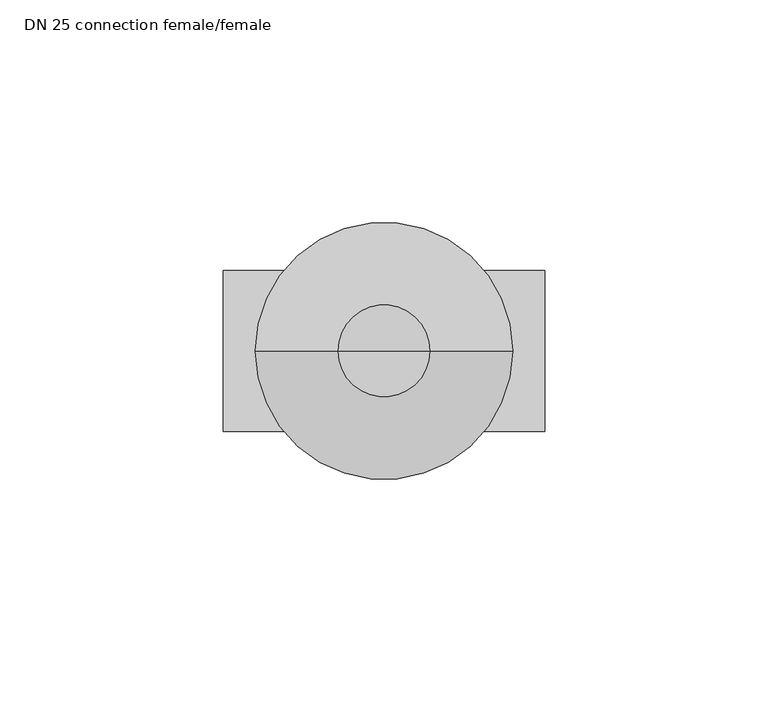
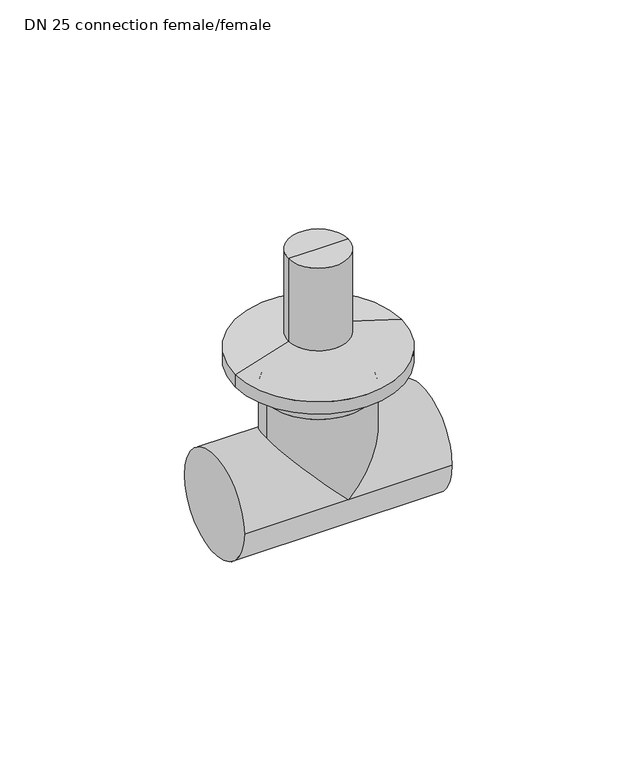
"""IFC4 building model written with IfcOpenShell, lengths in millimetres: valve geometry, PP-R_Valve_chrome cover : DN 25 connection female/female."""

from ifc_helpers import new_model, si_unit, point, frame, origin, place, context, project, spatial, polyline, circle_curve, ellipse_curve, trimmed, source, transform, mapped, element, save
from ifc_brep_helpers import plane_surface, cylinder_surface, revolved_surface, advanced_brep


def dn_25_connection_female_female_cc53bf04(model_context):
    return source(origin(), model_context, "Body", "AdvancedBrep", [
        advanced_brep(
        [(49.5156627, 0.0, 81.0), (59.801377, 0.0, 81.0), (39.2299485, 0.0, 81.0), (20.7156627, 0.0, 40.5), (78.3156627, 0.0, 40.5), (49.5156627, 0.0, 40.5), (20.7156627, 0.0, 45.0), (78.3156627, 0.0, 45.0), (59.801377, 0.0, 50.7857143), (39.2299485, 0.0, 50.7857143)],
        [
            (0, 1),
            (1, 2, circle_curve(frame((49.5156627, 0.0, 81.0), z_axis=(0.0, 0.0, 1.0), x_axis=(1.0, 0.0, 0.0)), 10.2857143)),
            (2, 0),
            (2, 1, circle_curve(frame((49.5156627, 0.0, 81.0), z_axis=(0.0, 0.0, 1.0), x_axis=(1.0, 0.0, 0.0)), 10.2857143)),
            (3, 4, circle_curve(frame((49.5156627, 0.0, 40.5), z_axis=(0.0, 0.0, -1.0), x_axis=(1.0, 0.0, 0.0)), 28.8)),
            (4, 5),
            (5, 3),
            (4, 3, circle_curve(frame((49.5156627, 0.0, 40.5), z_axis=(0.0, 0.0, -1.0), x_axis=(1.0, 0.0, 0.0)), 28.8)),
            (6, 7, circle_curve(frame((49.5156627, 0.0, 45.0), z_axis=(0.0, 0.0, -1.0), x_axis=(1.0, 0.0, 0.0)), 28.8)),
            (7, 4),
            (3, 6),
            (7, 6, circle_curve(frame((49.5156627, 0.0, 45.0), z_axis=(0.0, 0.0, -1.0), x_axis=(1.0, 0.0, 0.0)), 28.8)),
            (1, 8),
            (8, 9, circle_curve(frame((49.5156627, 0.0, 50.7857143), z_axis=(0.0, 0.0, 1.0), x_axis=(1.0, 0.0, 0.0)), 10.2857143)),
            (9, 2),
            (9, 8, circle_curve(frame((49.5156627, 0.0, 50.7857143), z_axis=(0.0, 0.0, 1.0), x_axis=(1.0, 0.0, 0.0)), 10.2857143)),
            (8, 7),
            (6, 9),
        ],
        [
            plane_surface(frame((49.5156627, 0.0, 81.0), z_axis=(0.0, 0.0, 1.0), x_axis=(1.0, 0.0, 0.0))),
            plane_surface(frame((49.5156627, 0.0, 40.5), z_axis=(0.0, 0.0, -1.0), x_axis=(1.0, 0.0, 0.0))),
            cylinder_surface(frame((49.5156627, 0.0, 164.5), z_axis=(0.0, 0.0, 1.0), x_axis=(1.0, 0.0, 0.0)), 28.8),
            cylinder_surface(frame((49.5156627, 0.0, 164.5), z_axis=(0.0, 0.0, 1.0), x_axis=(1.0, 0.0, 0.0)), 10.2857143),
            revolved_surface(polyline([(78.3156627, 0.0, 45.0), (59.801377, 0.0, 50.7857143)]), (49.5156627, 0.0, 164.5), (0.0, 0.0, 1.0)),
        ],
        [
            (0, [[1, 2, 3]]),
            (0, [[-3, 4, -1]]),
            (1, [[5, 6, 7]]),
            (1, [[8, -7, -6]]),
            (2, [[9, 10, -5, 11]]),
            (2, [[12, -11, -8, -10]]),
            (3, [[-2, 13, 14, 15]]),
            (3, [[-4, -15, 16, -13]]),
            (4, [[-14, 17, -9, 18]]),
            (4, [[-16, -18, -12, -17]]),
        ],
    ),
        advanced_brep(
        [(49.5156627, 0.0, 40.5), (58.5156627, 0.0, 40.5), (40.5156627, 0.0, 40.5), (36.0156627, 0.0, 35.5), (40.5156627, 0.0, 35.5), (58.5156627, 0.0, 35.5), (63.0156627, 0.0, 35.5), (67.5156627, 0.0, 31.0), (31.5156627, 0.0, 31.0), (67.5156627, 0.0, 18.0), (49.5156627, 18.0, 0.0), (31.5156627, 0.0, 18.0), (49.5156627, -18.0, 0.0), (85.5156627, -18.0, 0.0), (85.5156627, 18.0, 0.0), (13.5156627, -18.0, 0.0), (13.5156627, 18.0, 0.0)],
        [
            (0, 1),
            (1, 2, circle_curve(frame((49.5156627, 0.0, 40.5), z_axis=(0.0, 0.0, 1.0), x_axis=(1.0, 0.0, 0.0)), 9.0)),
            (2, 0),
            (2, 1, circle_curve(frame((49.5156627, 0.0, 40.5), z_axis=(0.0, 0.0, 1.0), x_axis=(1.0, 0.0, 0.0)), 9.0)),
            (3, 4),
            (4, 5, circle_curve(frame((49.5156627, 0.0, 35.5), z_axis=(0.0, 0.0, -1.0), x_axis=(1.0, 0.0, 0.0)), 9.0)),
            (5, 6),
            (6, 3, circle_curve(frame((49.5156627, 0.0, 35.5), z_axis=(0.0, 0.0, 1.0), x_axis=(1.0, 0.0, 0.0)), 13.5)),
            (3, 6, circle_curve(frame((49.5156627, 0.0, 35.5), z_axis=(0.0, 0.0, 1.0), x_axis=(1.0, 0.0, 0.0)), 13.5)),
            (5, 4, circle_curve(frame((49.5156627, 0.0, 35.5), z_axis=(0.0, 0.0, -1.0), x_axis=(1.0, 0.0, 0.0)), 9.0)),
            (6, 7, circle_curve(frame((63.0156627, 0.0, 31.0), z_axis=(0.0, 1.0, 0.0), x_axis=(1.0, 0.0, 0.0)), 4.5)),
            (7, 8, circle_curve(frame((49.5156627, 0.0, 31.0), z_axis=(0.0, 0.0, 1.0), x_axis=(1.0, 0.0, 0.0)), 18.0)),
            (8, 3, circle_curve(frame((36.0156627, 0.0, 31.0), z_axis=(0.0, 1.0, 0.0), x_axis=(-1.0, 0.0, 0.0)), 4.5)),
            (8, 7, circle_curve(frame((49.5156627, 0.0, 31.0), z_axis=(0.0, 0.0, 1.0), x_axis=(1.0, 0.0, 0.0)), 18.0)),
            (4, 2),
            (1, 5),
            (7, 9),
            (9, 10, ellipse_curve(frame((49.5156627, 0.0, 0.0), z_axis=(-0.7071067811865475, 0.0, 0.7071067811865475), x_axis=(0.7071067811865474, 0.0, 0.7071067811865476)), 25.4558441, 18.0)),
            (10, 11, ellipse_curve(frame((49.5156627, 0.0, 0.0), z_axis=(0.7071067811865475, 0.0, 0.7071067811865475), x_axis=(-0.7071067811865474, 0.0, 0.7071067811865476)), 25.4558441, 18.0)),
            (11, 8),
            (11, 12, ellipse_curve(frame((49.5156627, 0.0, 0.0), z_axis=(0.7071067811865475, 0.0, 0.7071067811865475), x_axis=(-0.7071067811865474, 0.0, 0.7071067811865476)), 25.4558441, 18.0)),
            (12, 9, ellipse_curve(frame((49.5156627, 0.0, 0.0), z_axis=(-0.7071067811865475, 0.0, 0.7071067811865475), x_axis=(0.7071067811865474, 0.0, 0.7071067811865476)), 25.4558441, 18.0)),
            (13, 14, circle_curve(frame((85.5156627, 0.0, 0.0), z_axis=(1.0, 0.0, 0.0), x_axis=(0.0, 1.0, 0.0)), 18.0)),
            (14, 13, circle_curve(frame((85.5156627, 0.0, 0.0), z_axis=(1.0, 0.0, 0.0), x_axis=(0.0, 1.0, 0.0)), 18.0)),
            (15, 16, circle_curve(frame((13.5156627, 0.0, 0.0), z_axis=(-1.0, 0.0, 0.0), x_axis=(0.0, 1.0, 0.0)), 18.0)),
            (16, 15, circle_curve(frame((13.5156627, 0.0, 0.0), z_axis=(-1.0, 0.0, 0.0), x_axis=(0.0, 1.0, 0.0)), 18.0)),
            (13, 12),
            (12, 15),
            (16, 10),
            (10, 14),
        ],
        [
            plane_surface(frame((49.5156627, 0.0, 40.5), z_axis=(0.0, 0.0, 1.0), x_axis=(1.0, 0.0, 0.0))),
            plane_surface(frame((49.5156627, 0.0, 35.5), z_axis=(0.0, 0.0, 1.0), x_axis=(1.0, 0.0, 0.0))),
            revolved_surface(trimmed(ellipse_curve(frame((63.0156627, 0.0, 31.0), z_axis=(0.0, -1.0, 0.0), x_axis=(1.0, 0.0, 0.0)), 4.5, 4.5), [point((67.5156627, 0.0, 31.0))], [point((63.0156627, 0.0, 35.5))], True, "CARTESIAN"), (49.5156627, 0.0, 121.0), (0.0, 0.0, 1.0)),
            cylinder_surface(frame((49.5156627, 0.0, 121.0), z_axis=(0.0, 0.0, 1.0), x_axis=(1.0, 0.0, 0.0)), 9.0),
            cylinder_surface(frame((49.5156627, 0.0, 106.0), z_axis=(0.0, 0.0, 1.0), x_axis=(1.0, 0.0, 0.0)), 18.0),
            plane_surface(frame((85.5156627, 18.0, 0.0), z_axis=(1.0, 0.0, 0.0), x_axis=(0.0, 0.0, 1.0))),
            plane_surface(frame((13.5156627, 18.0, 0.0), z_axis=(-1.0, 0.0, 0.0), x_axis=(0.0, 0.0, -1.0))),
            cylinder_surface(frame((13.5156627, 0.0, 0.0), z_axis=(1.0, 0.0, 0.0), x_axis=(0.0, 1.0, 0.0)), 18.0),
        ],
        [
            (0, [[1, 2, 3]]),
            (0, [[-1, -3, 4]]),
            (1, [[5, 6, 7, 8]]),
            (1, [[-5, 9, -7, 10]]),
            (2, [[-8, 11, 12, 13]]),
            (2, [[-9, -13, 14, -11]]),
            (3, [[-6, 15, -2, 16]]),
            (3, [[-10, -16, -4, -15]]),
            (4, [[-12, 17, 18, 19, 20]]),
            (4, [[-14, -20, 21, 22, -17]]),
            (5, [[23, 24]]),
            (6, [[25, 26]]),
            (7, [[-23, 27, 28, -26, 29, 30]]),
            (7, [[-24, -30, -18, -22, -27]]),
            (7, [[-25, -28, -21, -19, -29]]),
        ],
    ),
    ])


if __name__ == "__main__":
    model = new_model("IFC4")
    model_context = context("Model", 3, world=origin())
    ifc_project = project(units=[si_unit("LENGTHUNIT", "METRE", prefix="MILLI")], contexts=[model_context])
    site = spatial("IfcSite", under=ifc_project)
    building = spatial("IfcBuilding", under=site)
    placement = place(None, origin())
    dn_25_connection_female_female_shape = dn_25_connection_female_female_cc53bf04(model_context)
    element("IfcValve", 1, ObjectType="PP-R_Valve_chrome cover : DN 25 connection female/female", at=placement, inside=building, context=model_context, shape_type="MappedRepresentation", body=[
        mapped(dn_25_connection_female_female_shape, transform((0.0, 0.0, 0.0), x_axis=(1.0, 0.0, 0.0), y_axis=(0.0, 1.0, 0.0), z_axis=(0.0, 0.0, 1.0))),
    ])
    save(model, "model.ifc")
